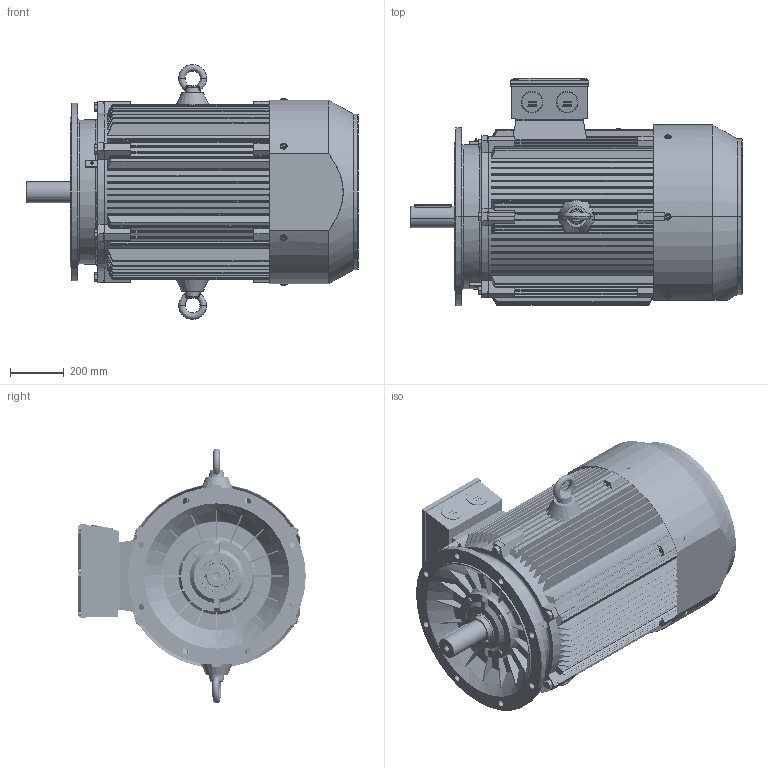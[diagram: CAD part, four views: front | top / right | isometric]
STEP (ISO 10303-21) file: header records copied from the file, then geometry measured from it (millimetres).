
FILE_DESCRIPTION (( 'STEP AP214' ), '1' );
FILE_NAME ('BCT4550.31A805.11.step', '2020-04-23T15:58:44', ( '' ), ( '' ), 'SwSTEP 2.0', 'SolidWorks 2019', '' );
FILE_SCHEMA (( 'AUTOMOTIVE_DESIGN' ));
Length unit declared in the file: millimetre
Products named in the file (1): BCT4550.31A805.11
Bounding box: 1232 x 844 x 946 mm (x, y, z)
Volume: 95861948.2 mm3; surface area: 12196191.3 mm2
Topology: 43 solids, 43 shells, 7812 faces, 21856 edges, 14337 vertices
Faces by surface type: plane 5638, cylinder 870, cone 452, torus 403, sphere 244, bspline 205
Entity records: 310474 total; most frequent: CARTESIAN_POINT 108225, ORIENTED_EDGE 43692, DIRECTION 37667, EDGE_CURVE 21846, VECTOR 15885, LINE 15885, VERTEX_POINT 14335, AXIS2_PLACEMENT_3D 10891
